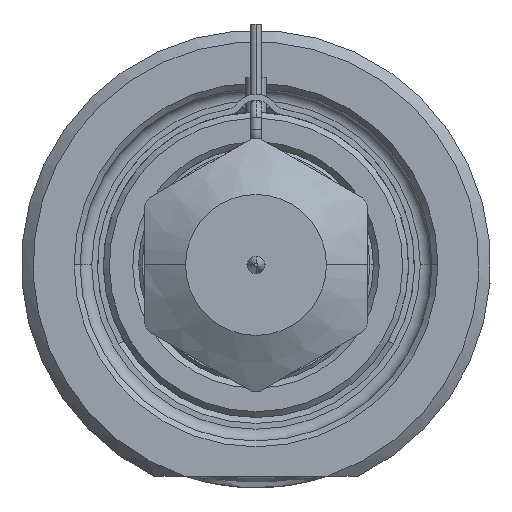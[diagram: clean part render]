
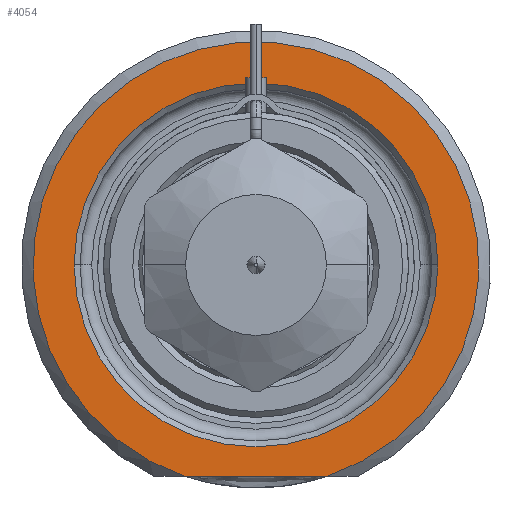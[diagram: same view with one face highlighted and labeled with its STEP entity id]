
A CAD part, front view. The second image highlights one B-rep face of the part: STEP entity #4054.
In plain terms, the highlighted planar face has unit normal (0, -1, 0).
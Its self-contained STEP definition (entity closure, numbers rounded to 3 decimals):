
#1=DIRECTION('',(1.,0.,0.));
#2=VECTOR('',#1,12.166);
#3=CARTESIAN_POINT('',(-6.083,0.,-18.));
#4=LINE('',#3,#2);
#5=CARTESIAN_POINT('',(0.,0.,0.));
#6=DIRECTION('',(0.,1.,0.));
#7=DIRECTION('',(-1.,0.,0.));
#8=AXIS2_PLACEMENT_3D('',#5,#6,#7);
#10=CARTESIAN_POINT('',(0.,0.,0.));
#11=DIRECTION('',(0.,1.,0.));
#12=DIRECTION('',(1.,0.,0.));
#13=AXIS2_PLACEMENT_3D('',#10,#11,#12);
#264=CARTESIAN_POINT('',(0.,0.,0.));
#265=DIRECTION('',(0.,-1.,0.));
#266=DIRECTION('',(0.32,0.,-0.947));
#267=AXIS2_PLACEMENT_3D('',#264,#265,#266);
#3413=CARTESIAN_POINT('',(-15.5,0.,0.));
#3414=CARTESIAN_POINT('',(15.5,0.,0.));
#3415=VERTEX_POINT('',#3413);
#3416=VERTEX_POINT('',#3414);
#3471=CARTESIAN_POINT('',(-6.083,0.,-18.));
#3472=CARTESIAN_POINT('',(6.083,0.,-18.));
#3473=VERTEX_POINT('',#3471);
#3474=VERTEX_POINT('',#3472);
#4037=CARTESIAN_POINT('',(0.,0.,0.));
#4038=DIRECTION('',(0.,-1.,0.));
#4039=DIRECTION('',(1.,0.,0.));
#4040=AXIS2_PLACEMENT_3D('',#4037,#4038,#4039);
#4041=PLANE('',#4040);
#4043=ORIENTED_EDGE('',*,*,#4042,.F.);
#4045=ORIENTED_EDGE('',*,*,#4044,.F.);
#4046=EDGE_LOOP('',(#4043,#4045));
#4047=FACE_OUTER_BOUND('',#4046,.F.);
#4049=ORIENTED_EDGE('',*,*,#4048,.F.);
#4051=ORIENTED_EDGE('',*,*,#4050,.F.);
#4052=EDGE_LOOP('',(#4049,#4051));
#4053=FACE_BOUND('',#4052,.F.);
#4054=ADVANCED_FACE('',(#4047,#4053),#4041,.T.);
#9=CIRCLE('',#8,15.5);
#14=CIRCLE('',#13,15.5);
#268=CIRCLE('',#267,19.);
#4042=EDGE_CURVE('',#3473,#3474,#4,.T.);
#4044=EDGE_CURVE('',#3474,#3473,#268,.T.);
#4048=EDGE_CURVE('',#3415,#3416,#9,.T.);
#4050=EDGE_CURVE('',#3416,#3415,#14,.T.);
